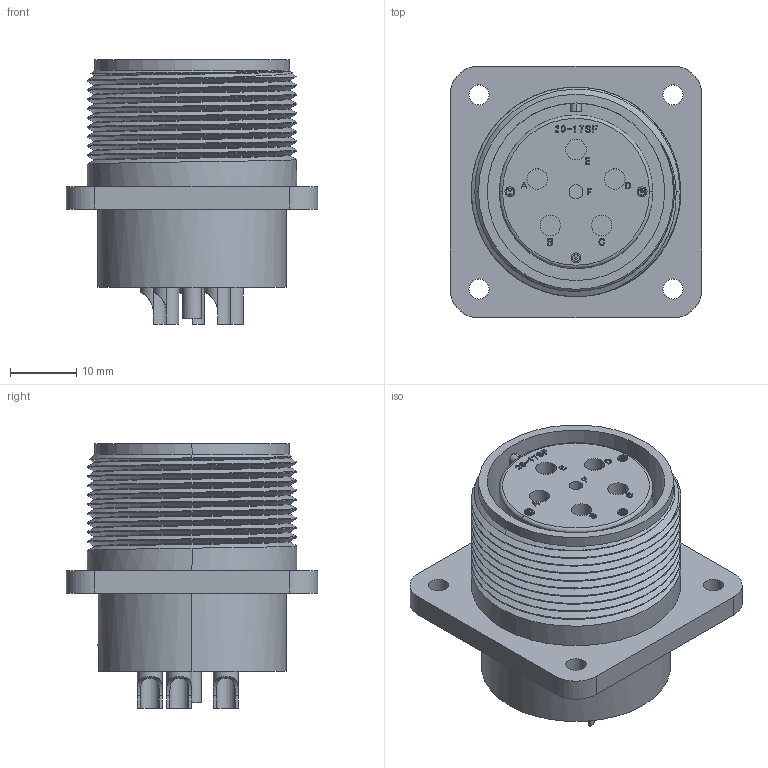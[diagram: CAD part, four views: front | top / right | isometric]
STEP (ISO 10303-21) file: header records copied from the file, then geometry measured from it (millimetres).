
FILE_DESCRIPTION (( 'STEP AP203' ), '1' );
FILE_NAME ('DMS3102A20-17S.STEP', '2018-11-12T01:54:11', ( '' ), ( '' ), 'SwSTEP 2.0', 'SolidWorks 2018', '' );
FILE_SCHEMA (( 'CONFIG_CONTROL_DESIGN' ));
Length unit declared in the file: millimetre
Products named in the file (1): DMS3102A20-17S
Bounding box: 38.1 x 38.1 x 40.03 mm (x, y, z)
Volume: 22647.6 mm3; surface area: 12342.6 mm2
Topology: 1 solids, 1 shells, 755 faces, 2013 edges, 1328 vertices
Faces by surface type: plane 345, bspline 209, cylinder 177, cone 16, torus 8
Full cylindrical faces by diameter (mm): 3.05 x4
Entity records: 31562 total; most frequent: CARTESIAN_POINT 14193, ORIENTED_EDGE 4014, DIRECTION 2828, EDGE_CURVE 2007, VERTEX_POINT 1326, VECTOR 1188, LINE 1188, EDGE_LOOP 837
